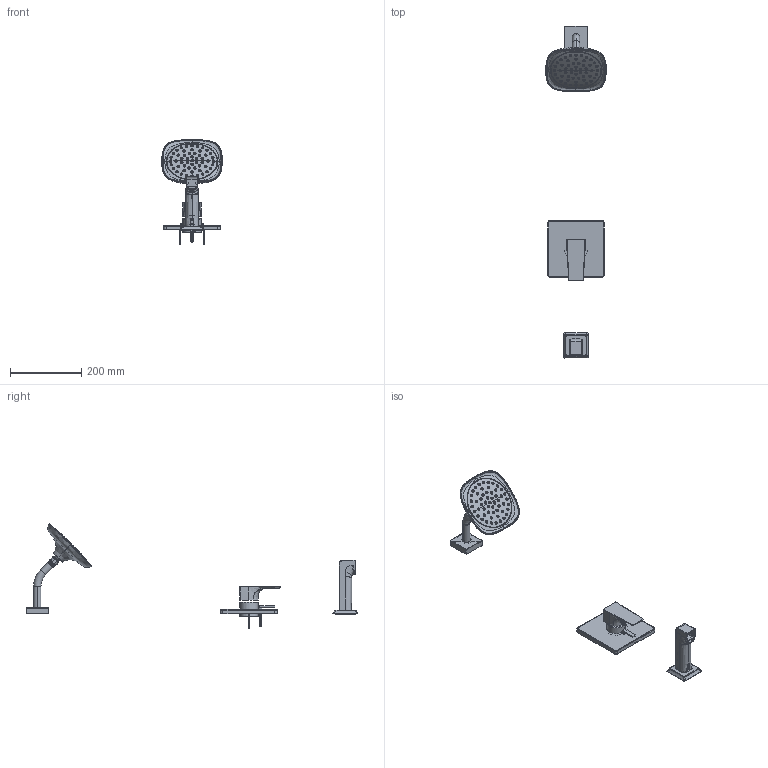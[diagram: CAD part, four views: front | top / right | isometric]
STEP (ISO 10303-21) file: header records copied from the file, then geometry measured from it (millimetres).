
FILE_DESCRIPTION (( 'STEP AP214' ), '1' );
FILE_NAME ('S4992TRM.STEP', '2025-01-02T03:47:01', ( '' ), ( '' ), 'SwSTEP 2.0', 'SolidWorks 2023', '' );
FILE_SCHEMA (( 'AUTOMOTIVE_DESIGN' ));
Products named in the file (1): S4992TRM
Bounding box: 169.76 x 933.38 x 294.03 mm (x, y, z)
Surface area: 288928.9 mm2 (no closed solid volume)
Topology: 0 solids, 220 shells, 1204 faces, 4067 edges, 3044 vertices
Faces by surface type: plane 344, cylinder 316, cone 229, bspline 211, torus 104
Entity records: 115683 total; most frequent: CARTESIAN_POINT 84378, ORIENTED_EDGE 6026, DIRECTION 5605, EDGE_CURVE 4061, VERTEX_POINT 3044, AXIS2_PLACEMENT_3D 2161, EDGE_LOOP 1399, B_SPLINE_CURVE_WITH_KNOTS 1383
